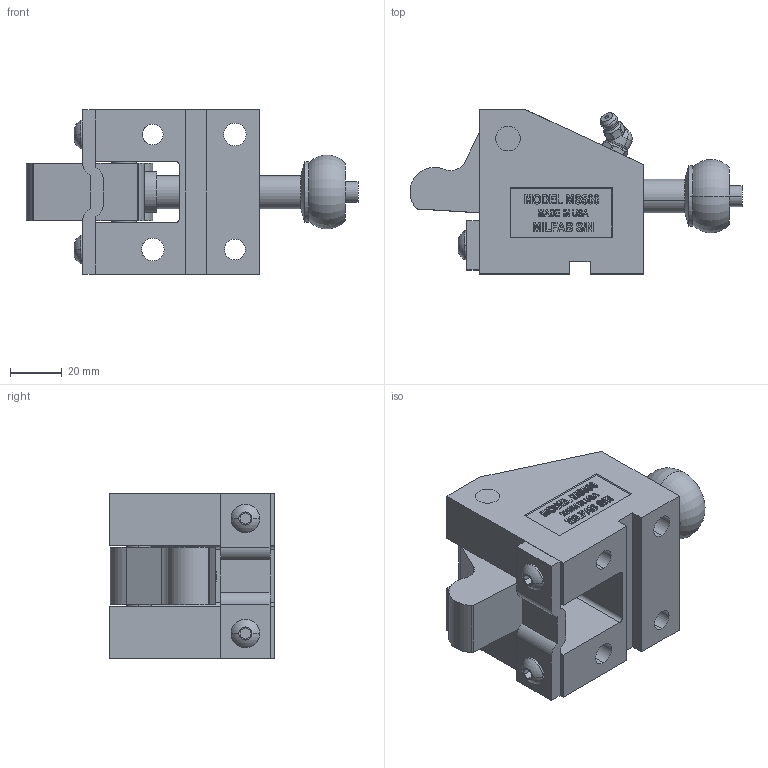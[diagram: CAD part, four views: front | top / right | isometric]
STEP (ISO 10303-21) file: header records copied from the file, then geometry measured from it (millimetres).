
FILE_DESCRIPTION (( 'STEP AP214' ), '1' );
FILE_NAME ('MS50045-C.STEP', '2014-01-07T18:55:52', ( 'user' ), ( '' ), 'SwSTEP 2.0', 'SolidWorks 2009', '' );
FILE_SCHEMA (( 'AUTOMOTIVE_DESIGN' ));
Length unit declared in the file: inch
Products named in the file (11): 500-OFFSET TRIGGER; MS50045-C; MS500-BODY; 500-WASHER; M-I-500-POINT; MS500-PUNCH; 500-I-STRAP; 500 PIVOT PIN; 500 STRIPPER CLOSED; GREASE ZERK; 1-4 SCREW
Assembly tree (11 placements, depth 2):
  MS50045-C
    MS500-PUNCH
    500-I-STRAP
    M-I-500-POINT
    500-WASHER
    1-4 SCREW  x2
    500 PIVOT PIN
    500 STRIPPER CLOSED
    GREASE ZERK
    MS500-BODY
    500-OFFSET TRIGGER
Bounding box: 128.38 x 63.5 x 63.5 mm (x, y, z)
Volume: 203214.6 mm3; surface area: 54159.4 mm2
Topology: 11 solids, 11 shells, 585 faces, 1516 edges, 997 vertices
Faces by surface type: plane 338, bspline 99, cylinder 94, cone 28, torus 22, sphere 4
Entity records: 23879 total; most frequent: CARTESIAN_POINT 10138, ORIENTED_EDGE 2948, DIRECTION 2354, EDGE_CURVE 1474, VERTEX_POINT 971, VECTOR 958, LINE 958, AXIS2_PLACEMENT_3D 698
